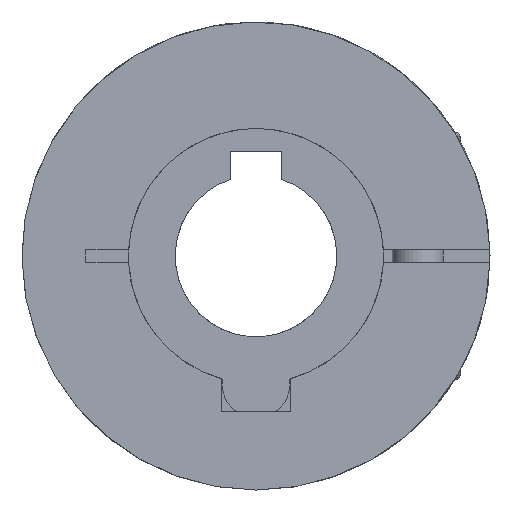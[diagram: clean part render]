
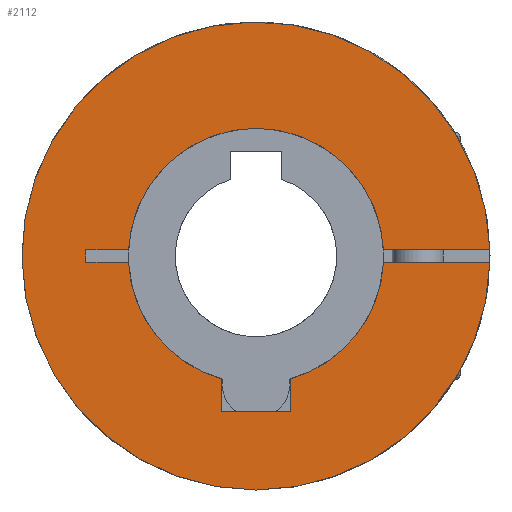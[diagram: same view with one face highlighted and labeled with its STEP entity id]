
A CAD part, left-side view. The second image highlights one B-rep face of the part: STEP entity #2112.
In plain terms, the highlighted planar face has unit normal (-1, 0, 0).
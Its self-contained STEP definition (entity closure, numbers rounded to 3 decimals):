
#32=PLANE('',#2404);
#219=FACE_OUTER_BOUND('',#348,.T.);
#348=EDGE_LOOP('',(#1588,#1589,#1590,#1591,#1592,#1593,#1594,#1595,#1596,
#1597,#1598,#1599,#1600));
#487=LINE('',#3678,#614);
#490=LINE('',#3684,#617);
#491=LINE('',#3686,#618);
#493=LINE('',#3689,#620);
#495=LINE('',#3693,#622);
#498=LINE('',#3699,#625);
#499=LINE('',#3700,#626);
#500=LINE('',#3701,#627);
#614=VECTOR('',#2835,1.);
#617=VECTOR('',#2840,1.);
#618=VECTOR('',#2843,1.);
#620=VECTOR('',#2847,22.546);
#622=VECTOR('',#2851,15.057);
#625=VECTOR('',#2856,15.057);
#626=VECTOR('',#2857,1.5);
#627=VECTOR('',#2858,22.546);
#805=CIRCLE('',#2386,27.5);
#807=CIRCLE('',#2388,27.5);
#811=CIRCLE('',#2393,15.);
#813=CIRCLE('',#2395,15.);
#814=CIRCLE('',#2397,15.);
#965=VERTEX_POINT('',#3630);
#966=VERTEX_POINT('',#3631);
#968=VERTEX_POINT('',#3636);
#975=VERTEX_POINT('',#3651);
#976=VERTEX_POINT('',#3653);
#979=VERTEX_POINT('',#3659);
#980=VERTEX_POINT('',#3661);
#981=VERTEX_POINT('',#3665);
#982=VERTEX_POINT('',#3666);
#986=VERTEX_POINT('',#3676);
#988=VERTEX_POINT('',#3682);
#989=VERTEX_POINT('',#3692);
#991=VERTEX_POINT('',#3698);
#1205=EDGE_CURVE('',#965,#966,#805,.T.);
#1208=EDGE_CURVE('',#966,#968,#807,.T.);
#1216=EDGE_CURVE('',#976,#975,#811,.T.);
#1220=EDGE_CURVE('',#980,#979,#813,.T.);
#1222=EDGE_CURVE('',#981,#982,#814,.T.);
#1228=EDGE_CURVE('',#979,#986,#487,.T.);
#1231=EDGE_CURVE('',#986,#988,#490,.T.);
#1232=EDGE_CURVE('',#988,#976,#491,.T.);
#1234=EDGE_CURVE('',#965,#980,#493,.T.);
#1236=EDGE_CURVE('',#989,#981,#495,.T.);
#1239=EDGE_CURVE('',#991,#975,#498,.T.);
#1240=EDGE_CURVE('',#989,#991,#499,.T.);
#1241=EDGE_CURVE('',#982,#968,#500,.T.);
#1588=ORIENTED_EDGE('',*,*,#1220,.T.);
#1589=ORIENTED_EDGE('',*,*,#1228,.T.);
#1590=ORIENTED_EDGE('',*,*,#1231,.T.);
#1591=ORIENTED_EDGE('',*,*,#1232,.T.);
#1592=ORIENTED_EDGE('',*,*,#1216,.T.);
#1593=ORIENTED_EDGE('',*,*,#1239,.F.);
#1594=ORIENTED_EDGE('',*,*,#1240,.F.);
#1595=ORIENTED_EDGE('',*,*,#1236,.T.);
#1596=ORIENTED_EDGE('',*,*,#1222,.T.);
#1597=ORIENTED_EDGE('',*,*,#1241,.T.);
#1598=ORIENTED_EDGE('',*,*,#1208,.F.);
#1599=ORIENTED_EDGE('',*,*,#1205,.F.);
#1600=ORIENTED_EDGE('',*,*,#1234,.T.);
#2112=ADVANCED_FACE('',(#219),#32,.T.);
#2386=AXIS2_PLACEMENT_3D('',#3632,#2795,#2796);
#2388=AXIS2_PLACEMENT_3D('',#3637,#2800,#2801);
#2393=AXIS2_PLACEMENT_3D('',#3654,#2814,#2815);
#2395=AXIS2_PLACEMENT_3D('',#3662,#2820,#2821);
#2397=AXIS2_PLACEMENT_3D('',#3667,#2825,#2826);
#2404=AXIS2_PLACEMENT_3D('',#3697,#2854,#2855);
#2795=DIRECTION('center_axis',(1.,0.,0.));
#2796=DIRECTION('ref_axis',(0.,0.,1.));
#2800=DIRECTION('center_axis',(1.,0.,0.));
#2801=DIRECTION('ref_axis',(0.,0.,1.));
#2814=DIRECTION('center_axis',(1.,0.,0.));
#2815=DIRECTION('ref_axis',(0.,0.,-1.));
#2820=DIRECTION('center_axis',(1.,0.,0.));
#2821=DIRECTION('ref_axis',(0.,0.,-1.));
#2825=DIRECTION('center_axis',(1.,0.,0.));
#2826=DIRECTION('ref_axis',(0.,0.,-1.));
#2835=DIRECTION('',(0.,0.,-1.));
#2840=DIRECTION('',(0.,1.,0.));
#2843=DIRECTION('',(0.,0.,1.));
#2847=DIRECTION('',(0.,1.,0.));
#2851=DIRECTION('',(0.,-1.,0.));
#2854=DIRECTION('center_axis',(-1.,0.,0.));
#2855=DIRECTION('ref_axis',(0.,-1.,0.));
#2856=DIRECTION('',(0.,-1.,0.));
#2857=DIRECTION('',(0.,0.,-1.));
#2858=DIRECTION('',(0.,-1.,0.));
#3630=CARTESIAN_POINT('',(0.,-27.49,-0.75));
#3631=CARTESIAN_POINT('',(0.,0.,-27.5));
#3632=CARTESIAN_POINT('Origin',(0.,0.,0.));
#3636=CARTESIAN_POINT('',(0.,-27.49,0.75));
#3637=CARTESIAN_POINT('Origin',(0.,0.,0.));
#3651=CARTESIAN_POINT('',(0.,14.981,-0.75));
#3653=CARTESIAN_POINT('',(0.,4.,-14.457));
#3654=CARTESIAN_POINT('Origin',(0.,0.,0.));
#3659=CARTESIAN_POINT('',(0.,-4.,-14.457));
#3661=CARTESIAN_POINT('',(0.,-14.981,-0.75));
#3662=CARTESIAN_POINT('Origin',(0.,0.,0.));
#3665=CARTESIAN_POINT('',(0.,14.981,0.75));
#3666=CARTESIAN_POINT('',(0.,-14.981,0.75));
#3667=CARTESIAN_POINT('Origin',(0.,0.,0.));
#3676=CARTESIAN_POINT('',(0.,-4.,-18.3));
#3678=CARTESIAN_POINT('',(0.,-4.,-4.575));
#3682=CARTESIAN_POINT('',(0.,4.,-18.3));
#3684=CARTESIAN_POINT('',(0.,0.,-18.3));
#3686=CARTESIAN_POINT('',(0.,4.,-4.575));
#3689=CARTESIAN_POINT('',(0.,-27.49,-0.75));
#3692=CARTESIAN_POINT('',(0.,20.,0.75));
#3693=CARTESIAN_POINT('',(0.,20.,0.75));
#3697=CARTESIAN_POINT('Origin',(0.,0.,0.));
#3698=CARTESIAN_POINT('',(0.,20.,-0.75));
#3699=CARTESIAN_POINT('',(0.,20.,-0.75));
#3700=CARTESIAN_POINT('',(0.,20.,0.75));
#3701=CARTESIAN_POINT('',(0.,-4.943,0.75));
